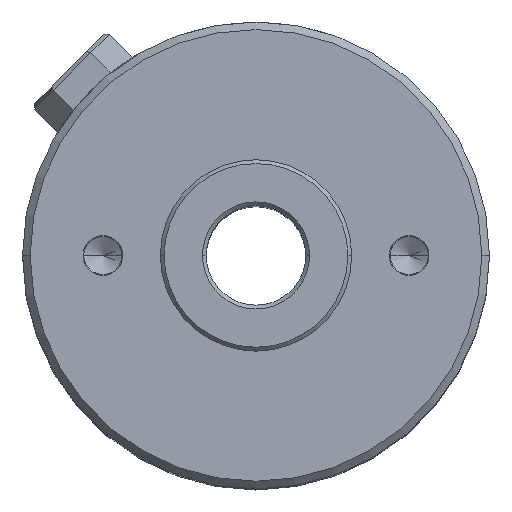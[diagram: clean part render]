
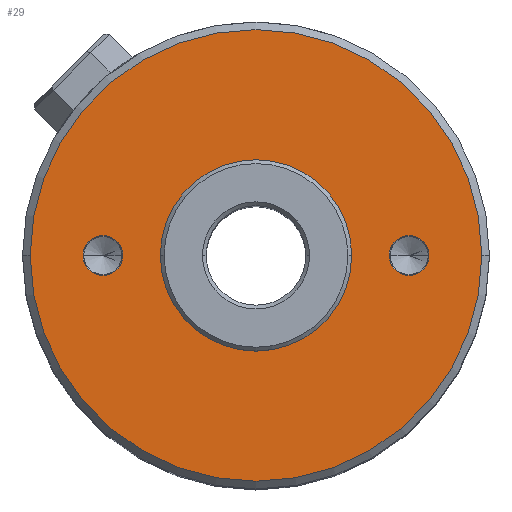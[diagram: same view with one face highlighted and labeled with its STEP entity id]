
A CAD part, top view. The second image highlights one B-rep face of the part: STEP entity #29.
In plain terms, the highlighted planar face has unit normal (0, 0, 1).
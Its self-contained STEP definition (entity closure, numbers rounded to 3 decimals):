
#29 = ADVANCED_FACE ( 'NONE', ( #1423, #135, #629, #1847 ), #664, .T. ) ;
#36 = AXIS2_PLACEMENT_3D ( 'NONE', #1353, #413, #1519 ) ;
#60 = DIRECTION ( 'NONE',  ( 0., 0., 1. ) ) ;
#135 = FACE_BOUND ( 'NONE', #356, .T. ) ;
#205 = AXIS2_PLACEMENT_3D ( 'NONE', #227, #1344, #405 ) ;
#217 = DIRECTION ( 'NONE',  ( 0., 0., 1. ) ) ;
#227 = CARTESIAN_POINT ( 'NONE',  ( 20., 0., 85. ) ) ;
#254 = CARTESIAN_POINT ( 'NONE',  ( 29.5, 0., 85. ) ) ;
#284 = AXIS2_PLACEMENT_3D ( 'NONE', #422, #1533, #582 ) ;
#295 = AXIS2_PLACEMENT_3D ( 'NONE', #1180, #217, #1336 ) ;
#356 = EDGE_LOOP ( 'NONE', ( #1394, #1627 ) ) ;
#358 = EDGE_CURVE ( 'NONE', #1985, #1446, #730, .T. ) ;
#371 = CARTESIAN_POINT ( 'NONE',  ( 17.4, 0., 85. ) ) ;
#405 = DIRECTION ( 'NONE',  ( 1., 0., 0. ) ) ;
#413 = DIRECTION ( 'NONE',  ( 0., 0., 1. ) ) ;
#422 = CARTESIAN_POINT ( 'NONE',  ( 20., 0., 85. ) ) ;
#432 = ORIENTED_EDGE ( 'NONE', *, *, #2021, .T. ) ;
#444 = CARTESIAN_POINT ( 'NONE',  ( -20., 0., 85. ) ) ;
#445 = CARTESIAN_POINT ( 'NONE',  ( 22.6, 0., 85. ) ) ;
#534 = CARTESIAN_POINT ( 'NONE',  ( -17.4, 0., 85. ) ) ;
#535 = VERTEX_POINT ( 'NONE', #607 ) ;
#582 = DIRECTION ( 'NONE',  ( 1., 0., 0. ) ) ;
#601 = DIRECTION ( 'NONE',  ( 1., 0., 0. ) ) ;
#607 = CARTESIAN_POINT ( 'NONE',  ( -22.6, 0., 85. ) ) ;
#629 = FACE_BOUND ( 'NONE', #889, .T. ) ;
#664 = PLANE ( 'NONE',  #1646 ) ;
#675 = CARTESIAN_POINT ( 'NONE',  ( -12.5, 0., 85. ) ) ;
#680 = VERTEX_POINT ( 'NONE', #371 ) ;
#704 = CIRCLE ( 'NONE', #284, 2.6 ) ;
#726 = DIRECTION ( 'NONE',  ( 0., 0., -1. ) ) ;
#730 = CIRCLE ( 'NONE', #1912, 12.5 ) ;
#755 = EDGE_LOOP ( 'NONE', ( #1120, #1168 ) ) ;
#806 = CARTESIAN_POINT ( 'NONE',  ( -29.5, 0., 85. ) ) ;
#840 = AXIS2_PLACEMENT_3D ( 'NONE', #1681, #726, #1834 ) ;
#889 = EDGE_LOOP ( 'NONE', ( #432, #1634 ) ) ;
#892 = CARTESIAN_POINT ( 'NONE',  ( 12.5, 0., 85. ) ) ;
#919 = ORIENTED_EDGE ( 'NONE', *, *, #1606, .T. ) ;
#1042 = CARTESIAN_POINT ( 'NONE',  ( 0., 0., 85. ) ) ;
#1052 = VERTEX_POINT ( 'NONE', #445 ) ;
#1120 = ORIENTED_EDGE ( 'NONE', *, *, #1670, .F. ) ;
#1125 = AXIS2_PLACEMENT_3D ( 'NONE', #1042, #60, #1212 ) ;
#1168 = ORIENTED_EDGE ( 'NONE', *, *, #358, .F. ) ;
#1178 = CIRCLE ( 'NONE', #840, 2.6 ) ;
#1180 = CARTESIAN_POINT ( 'NONE',  ( 0., 0., 85. ) ) ;
#1212 = DIRECTION ( 'NONE',  ( 1., 0., 0. ) ) ;
#1336 = DIRECTION ( 'NONE',  ( 1., 0., 0. ) ) ;
#1344 = DIRECTION ( 'NONE',  ( 0., 0., -1. ) ) ;
#1353 = CARTESIAN_POINT ( 'NONE',  ( 0., 0., 85. ) ) ;
#1364 = VERTEX_POINT ( 'NONE', #806 ) ;
#1394 = ORIENTED_EDGE ( 'NONE', *, *, #1683, .T. ) ;
#1409 = AXIS2_PLACEMENT_3D ( 'NONE', #444, #1551, #601 ) ;
#1423 = FACE_OUTER_BOUND ( 'NONE', #2005, .T. ) ;
#1446 = VERTEX_POINT ( 'NONE', #675 ) ;
#1447 = DIRECTION ( 'NONE',  ( 0., 0., 1. ) ) ;
#1462 = DIRECTION ( 'NONE',  ( 1., 0., 0. ) ) ;
#1468 = CARTESIAN_POINT ( 'NONE',  ( 0., 0., 85. ) ) ;
#1519 = DIRECTION ( 'NONE',  ( 1., 0., 0. ) ) ;
#1531 = CIRCLE ( 'NONE', #1409, 2.6 ) ;
#1533 = DIRECTION ( 'NONE',  ( 0., 0., -1. ) ) ;
#1541 = EDGE_CURVE ( 'NONE', #1364, #1716, #2062, .T. ) ;
#1549 = ORIENTED_EDGE ( 'NONE', *, *, #1541, .T. ) ;
#1551 = DIRECTION ( 'NONE',  ( 0., 0., -1. ) ) ;
#1573 = EDGE_CURVE ( 'NONE', #680, #1052, #1650, .T. ) ;
#1595 = CIRCLE ( 'NONE', #1125, 12.5 ) ;
#1606 = EDGE_CURVE ( 'NONE', #1716, #1364, #1968, .T. ) ;
#1627 = ORIENTED_EDGE ( 'NONE', *, *, #1573, .T. ) ;
#1634 = ORIENTED_EDGE ( 'NONE', *, *, #1653, .T. ) ;
#1646 = AXIS2_PLACEMENT_3D ( 'NONE', #1468, #1942, #1462 ) ;
#1650 = CIRCLE ( 'NONE', #205, 2.6 ) ;
#1653 = EDGE_CURVE ( 'NONE', #535, #1796, #1178, .T. ) ;
#1670 = EDGE_CURVE ( 'NONE', #1446, #1985, #1595, .T. ) ;
#1681 = CARTESIAN_POINT ( 'NONE',  ( -20., 0., 85. ) ) ;
#1683 = EDGE_CURVE ( 'NONE', #1052, #680, #704, .T. ) ;
#1716 = VERTEX_POINT ( 'NONE', #254 ) ;
#1768 = DIRECTION ( 'NONE',  ( 1., 0., 0. ) ) ;
#1796 = VERTEX_POINT ( 'NONE', #534 ) ;
#1834 = DIRECTION ( 'NONE',  ( 1., 0., 0. ) ) ;
#1847 = FACE_BOUND ( 'NONE', #755, .T. ) ;
#1912 = AXIS2_PLACEMENT_3D ( 'NONE', #1924, #1447, #1768 ) ;
#1924 = CARTESIAN_POINT ( 'NONE',  ( 0., 0., 85. ) ) ;
#1942 = DIRECTION ( 'NONE',  ( 0., 0., 1. ) ) ;
#1968 = CIRCLE ( 'NONE', #36, 29.5 ) ;
#1985 = VERTEX_POINT ( 'NONE', #892 ) ;
#2005 = EDGE_LOOP ( 'NONE', ( #1549, #919 ) ) ;
#2021 = EDGE_CURVE ( 'NONE', #1796, #535, #1531, .T. ) ;
#2062 = CIRCLE ( 'NONE', #295, 29.5 ) ;
